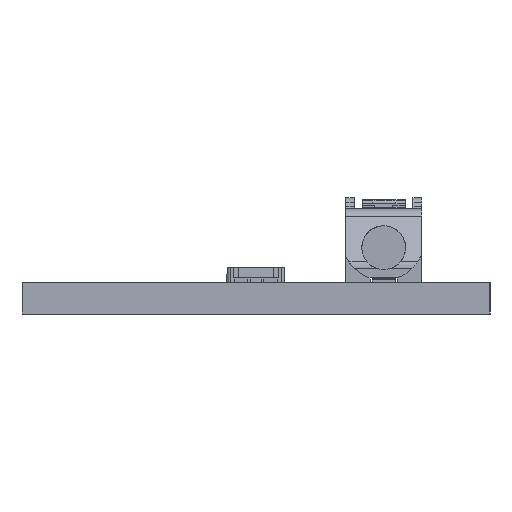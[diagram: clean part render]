
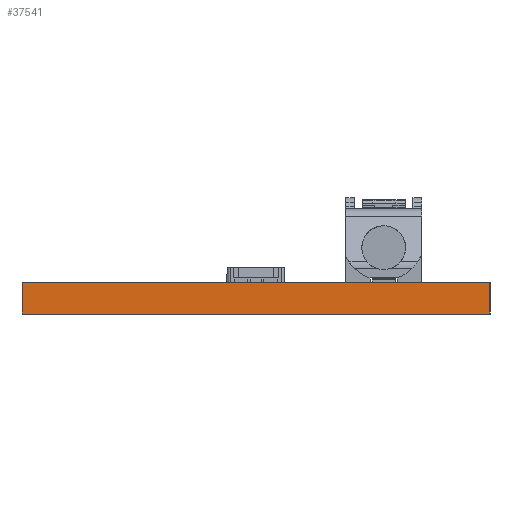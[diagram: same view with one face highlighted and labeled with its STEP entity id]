
A CAD part, left-side view. The second image highlights one B-rep face of the part: STEP entity #37541.
In plain terms, the highlighted planar face has unit normal (-1, 0, 0).
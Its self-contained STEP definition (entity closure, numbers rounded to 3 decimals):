
#732 = CARTESIAN_POINT ( 'NONE',  ( -28.32, 69.402, 108.176 ) ) ;
#1813 = CARTESIAN_POINT ( 'NONE',  ( -28.32, 93.402, 108.176 ) ) ;
#1822 = CARTESIAN_POINT ( 'NONE',  ( -28.32, 69.402, 108.176 ) ) ;
#4979 = EDGE_CURVE ( 'NONE', #35481, #43491, #43277, .T. ) ;
#5292 = DIRECTION ( 'NONE',  ( 0., 1., 0. ) ) ;
#5638 = ORIENTED_EDGE ( 'NONE', *, *, #4979, .F. ) ;
#5700 = VECTOR ( 'NONE', #5292, 1000. ) ;
#7794 = ORIENTED_EDGE ( 'NONE', *, *, #36134, .T. ) ;
#8842 = CARTESIAN_POINT ( 'NONE',  ( -28.32, 69.402, 106.576 ) ) ;
#10850 = CARTESIAN_POINT ( 'NONE',  ( -28.32, 93.402, 108.176 ) ) ;
#11744 = LINE ( 'NONE', #36509, #29473 ) ;
#15772 = EDGE_CURVE ( 'NONE', #31207, #35481, #16279, .T. ) ;
#16279 = LINE ( 'NONE', #1822, #25711 ) ;
#17173 = VERTEX_POINT ( 'NONE', #10850 ) ;
#20307 = DIRECTION ( 'NONE',  ( 1., 0., 0. ) ) ;
#20905 = ORIENTED_EDGE ( 'NONE', *, *, #25183, .F. ) ;
#22053 = EDGE_LOOP ( 'NONE', ( #30631, #20905, #7794, #5638 ) ) ;
#22539 = VECTOR ( 'NONE', #26614, 1000. ) ;
#25183 = EDGE_CURVE ( 'NONE', #17173, #31207, #11744, .T. ) ;
#25711 = VECTOR ( 'NONE', #36931, 1000. ) ;
#26614 = DIRECTION ( 'NONE',  ( 0., 0., -1. ) ) ;
#28242 = AXIS2_PLACEMENT_3D ( 'NONE', #34344, #20307, #44976 ) ;
#29473 = VECTOR ( 'NONE', #40033, 1000. ) ;
#30631 = ORIENTED_EDGE ( 'NONE', *, *, #15772, .F. ) ;
#30829 = LINE ( 'NONE', #1813, #22539 ) ;
#31207 = VERTEX_POINT ( 'NONE', #732 ) ;
#32369 = CARTESIAN_POINT ( 'NONE',  ( -28.32, 69.402, 106.576 ) ) ;
#34344 = CARTESIAN_POINT ( 'NONE',  ( -28.32, 69.402, 108.176 ) ) ;
#34515 = FACE_OUTER_BOUND ( 'NONE', #22053, .T. ) ;
#35481 = VERTEX_POINT ( 'NONE', #32369 ) ;
#36134 = EDGE_CURVE ( 'NONE', #17173, #43491, #30829, .T. ) ;
#36509 = CARTESIAN_POINT ( 'NONE',  ( -28.32, 69.402, 108.176 ) ) ;
#36931 = DIRECTION ( 'NONE',  ( 0., 0., -1. ) ) ;
#37541 = ADVANCED_FACE ( 'NONE', ( #34515 ), #41415, .F. ) ;
#40033 = DIRECTION ( 'NONE',  ( 0., -1., 0. ) ) ;
#41415 = PLANE ( 'NONE',  #28242 ) ;
#41604 = CARTESIAN_POINT ( 'NONE',  ( -28.32, 93.402, 106.576 ) ) ;
#43277 = LINE ( 'NONE', #8842, #5700 ) ;
#43491 = VERTEX_POINT ( 'NONE', #41604 ) ;
#44976 = DIRECTION ( 'NONE',  ( 0., 0., -1. ) ) ;
